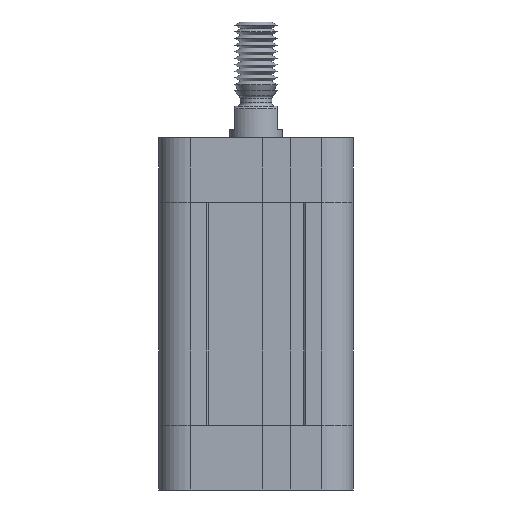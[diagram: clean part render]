
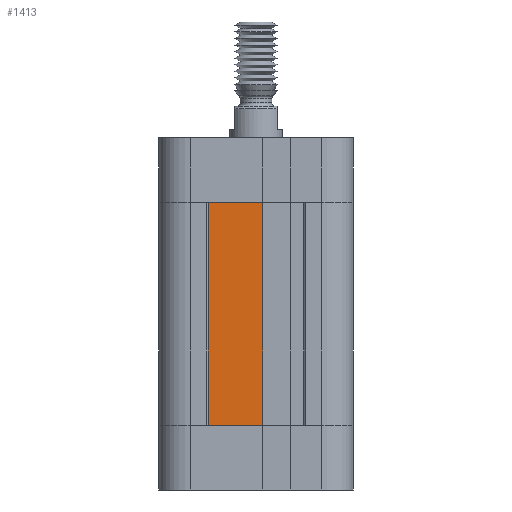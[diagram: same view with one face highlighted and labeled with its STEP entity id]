
A CAD part, front view. The second image highlights one B-rep face of the part: STEP entity #1413.
In plain terms, the highlighted planar face has unit normal (0, -1, 0).
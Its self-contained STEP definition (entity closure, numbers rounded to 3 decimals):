
#972 = VERTEX_POINT ( 'NONE', #4848 ) ;
#974 = EDGE_CURVE ( 'NONE', #972, #975, #4847, .T. ) ;
#975 = VERTEX_POINT ( 'NONE', #4843 ) ;
#1276 = VERTEX_POINT ( 'NONE', #5401 ) ;
#1278 = EDGE_CURVE ( 'NONE', #1279, #1276, #5400, .T. ) ;
#1279 = VERTEX_POINT ( 'NONE', #5396 ) ;
#1392 = ORIENTED_EDGE ( 'NONE', *, *, #1393, .F. ) ;
#1393 = EDGE_CURVE ( 'NONE', #975, #1276, #5604, .T. ) ;
#1394 = ORIENTED_EDGE ( 'NONE', *, *, #974, .F. ) ;
#1395 = ORIENTED_EDGE ( 'NONE', *, *, #1410, .T. ) ;
#1410 = EDGE_CURVE ( 'NONE', #972, #1279, #5585, .T. ) ;
#1413 = ADVANCED_FACE ( 'NONE', ( #5642 ), #5639, .F. ) ;
#1414 = EDGE_LOOP ( 'NONE', ( #2892, #1392, #1394, #1395 ) ) ;
#2892 = ORIENTED_EDGE ( 'NONE', *, *, #1278, .T. ) ;
#4843 = CARTESIAN_POINT ( 'NONE',  ( 9.1, -18.1, 42.4 ) ) ;
#4844 = DIRECTION ( 'NONE',  ( 1., 0., 0. ) ) ;
#4845 = VECTOR ( 'NONE', #4844, 1000. ) ;
#4846 = CARTESIAN_POINT ( 'NONE',  ( -1.25, -18.1, 42.4 ) ) ;
#4847 = LINE ( 'NONE', #4846, #4845 ) ;
#4848 = CARTESIAN_POINT ( 'NONE',  ( -1.25, -18.1, 42.4 ) ) ;
#5396 = CARTESIAN_POINT ( 'NONE',  ( -1.25, -18.1, 0. ) ) ;
#5397 = DIRECTION ( 'NONE',  ( 1., 0., 0. ) ) ;
#5398 = VECTOR ( 'NONE', #5397, 1000. ) ;
#5399 = CARTESIAN_POINT ( 'NONE',  ( -1.25, -18.1, 0. ) ) ;
#5400 = LINE ( 'NONE', #5399, #5398 ) ;
#5401 = CARTESIAN_POINT ( 'NONE',  ( 9.1, -18.1, 0. ) ) ;
#5577 = DIRECTION ( 'NONE',  ( 0., 0., -1. ) ) ;
#5578 = VECTOR ( 'NONE', #5577, 1000. ) ;
#5579 = CARTESIAN_POINT ( 'NONE',  ( -1.25, -18.1, 42.4 ) ) ;
#5585 = LINE ( 'NONE', #5579, #5578 ) ;
#5601 = DIRECTION ( 'NONE',  ( 0., 0., -1. ) ) ;
#5602 = VECTOR ( 'NONE', #5601, 1000. ) ;
#5603 = CARTESIAN_POINT ( 'NONE',  ( 9.1, -18.1, 42.4 ) ) ;
#5604 = LINE ( 'NONE', #5603, #5602 ) ;
#5635 = DIRECTION ( 'NONE',  ( -1., 0., 0. ) ) ;
#5636 = DIRECTION ( 'NONE',  ( 0., 1., 0. ) ) ;
#5637 = CARTESIAN_POINT ( 'NONE',  ( -1.25, -18.1, 42.4 ) ) ;
#5638 = AXIS2_PLACEMENT_3D ( 'NONE', #5637, #5636, #5635 ) ;
#5639 = PLANE ( 'NONE',  #5638 ) ;
#5642 = FACE_OUTER_BOUND ( 'NONE', #1414, .T. ) ;
